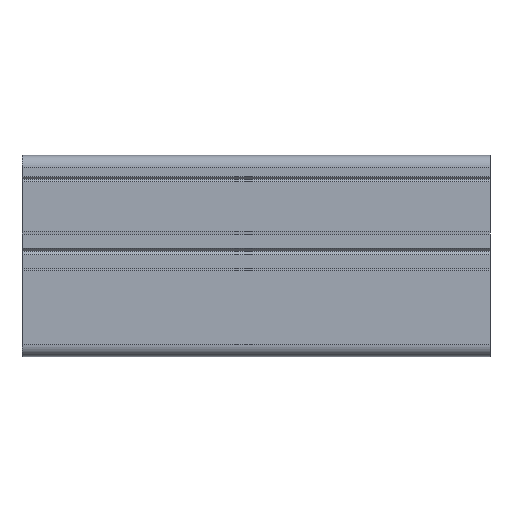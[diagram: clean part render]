
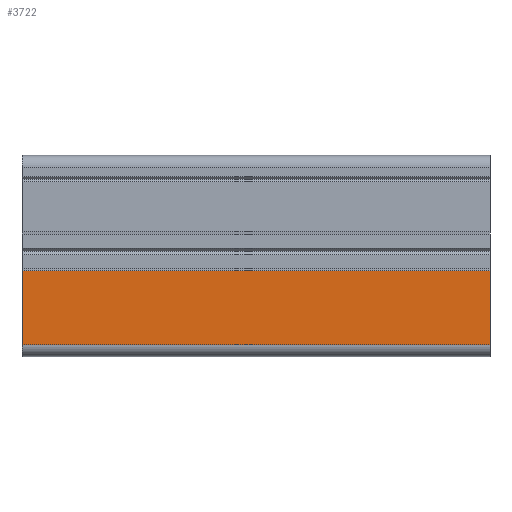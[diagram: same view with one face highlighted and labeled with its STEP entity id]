
A CAD part, front view. The second image highlights one B-rep face of the part: STEP entity #3722.
In plain terms, the highlighted planar face has unit normal (0, -1, 0).
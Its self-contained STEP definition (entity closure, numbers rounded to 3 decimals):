
#101 = PLANE ( 'NONE',  #2884 ) ;
#301 = CARTESIAN_POINT ( 'NONE',  ( -40.816, 32.398, -4.15 ) ) ;
#641 = EDGE_CURVE ( 'NONE', #3492, #967, #2060, .T. ) ;
#889 = EDGE_CURVE ( 'NONE', #2186, #2223, #1209, .T. ) ;
#967 = VERTEX_POINT ( 'NONE', #983 ) ;
#968 = DIRECTION ( 'NONE',  ( 0., 0., -1. ) ) ;
#983 = CARTESIAN_POINT ( 'NONE',  ( -40.816, 32.398, -20. ) ) ;
#1167 = VECTOR ( 'NONE', #1415, 1000. ) ;
#1209 = LINE ( 'NONE', #2898, #1167 ) ;
#1325 = ORIENTED_EDGE ( 'NONE', *, *, #889, .F. ) ;
#1369 = CARTESIAN_POINT ( 'NONE',  ( 59.184, 32.398, -4.15 ) ) ;
#1387 = VECTOR ( 'NONE', #1517, 1000. ) ;
#1415 = DIRECTION ( 'NONE',  ( 0., 0., -1. ) ) ;
#1416 = ORIENTED_EDGE ( 'NONE', *, *, #641, .T. ) ;
#1517 = DIRECTION ( 'NONE',  ( -1., 0., 0. ) ) ;
#1530 = CARTESIAN_POINT ( 'NONE',  ( 59.184, 32.398, -4.15 ) ) ;
#1547 = CARTESIAN_POINT ( 'NONE',  ( 59.184, 32.398, -20. ) ) ;
#1606 = CARTESIAN_POINT ( 'NONE',  ( 59.184, 32.398, -4.15 ) ) ;
#1777 = CARTESIAN_POINT ( 'NONE',  ( 59.184, 32.398, -20. ) ) ;
#1793 = DIRECTION ( 'NONE',  ( 0., 1., 0. ) ) ;
#1817 = ORIENTED_EDGE ( 'NONE', *, *, #1960, .F. ) ;
#1960 = EDGE_CURVE ( 'NONE', #2223, #967, #2185, .T. ) ;
#2012 = FACE_OUTER_BOUND ( 'NONE', #2038, .T. ) ;
#2038 = EDGE_LOOP ( 'NONE', ( #1416, #1817, #1325, #2659 ) ) ;
#2060 = LINE ( 'NONE', #2660, #3232 ) ;
#2185 = LINE ( 'NONE', #1547, #1387 ) ;
#2186 = VERTEX_POINT ( 'NONE', #1369 ) ;
#2223 = VERTEX_POINT ( 'NONE', #1777 ) ;
#2389 = DIRECTION ( 'NONE',  ( 0., 0., 1. ) ) ;
#2480 = DIRECTION ( 'NONE',  ( -1., 0., 0. ) ) ;
#2572 = VECTOR ( 'NONE', #2480, 1000. ) ;
#2659 = ORIENTED_EDGE ( 'NONE', *, *, #3468, .T. ) ;
#2660 = CARTESIAN_POINT ( 'NONE',  ( -40.816, 32.398, -4.15 ) ) ;
#2884 = AXIS2_PLACEMENT_3D ( 'NONE', #1530, #1793, #2389 ) ;
#2898 = CARTESIAN_POINT ( 'NONE',  ( 59.184, 32.398, -4.15 ) ) ;
#3186 = LINE ( 'NONE', #1606, #2572 ) ;
#3232 = VECTOR ( 'NONE', #968, 1000. ) ;
#3468 = EDGE_CURVE ( 'NONE', #2186, #3492, #3186, .T. ) ;
#3492 = VERTEX_POINT ( 'NONE', #301 ) ;
#3722 = ADVANCED_FACE ( 'NONE', ( #2012 ), #101, .F. ) ;
